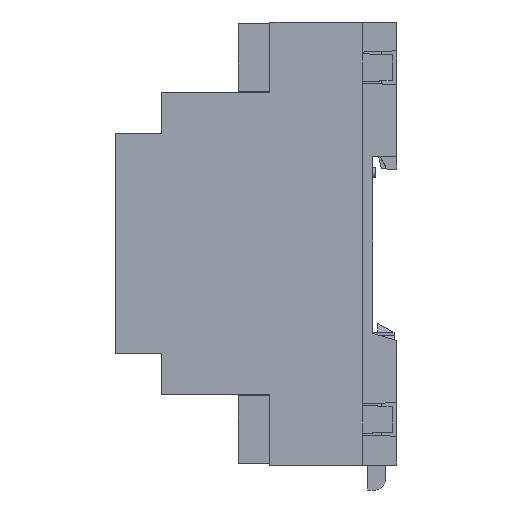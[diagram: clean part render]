
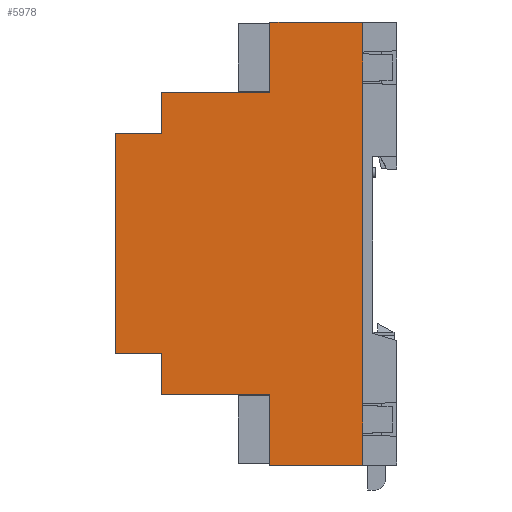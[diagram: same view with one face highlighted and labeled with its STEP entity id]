
A CAD part, left-side view. The second image highlights one B-rep face of the part: STEP entity #5978.
In plain terms, the highlighted planar face has unit normal (-1, 0.009, 0) as drawn and (0, 0.009, -1) by its records, which use the part's own axes.
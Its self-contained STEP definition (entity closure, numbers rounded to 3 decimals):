
#5978=ADVANCED_FACE('',(#27081),#27083,.F.);
#27081=FACE_BOUND('',#27082,.T.);
#27082=EDGE_LOOP('',(#43391,#43392,#43393,#43394,#43395,#43396,#43397,#43398,#43399,
#43400,#43401,#43402,#43403,#43404,#43405,#43406));
#27083=PLANE('',#27084);
#27084=AXIS2_PLACEMENT_3D('',#27085,#27086,#27087);
#27085=CARTESIAN_POINT('',(-46.,6.,-41.8));
#27086=DIRECTION('',(0.,-0.009,1.));
#27087=DIRECTION('',(0.,-1.,-0.009));
#43391=ORIENTED_EDGE('',*,*,#58724,.F.);
#43392=ORIENTED_EDGE('',*,*,#58807,.F.);
#43393=ORIENTED_EDGE('',*,*,#58798,.F.);
#43394=ORIENTED_EDGE('',*,*,#58643,.F.);
#43395=ORIENTED_EDGE('',*,*,#58786,.F.);
#43396=ORIENTED_EDGE('',*,*,#58776,.F.);
#43397=ORIENTED_EDGE('',*,*,#58681,.F.);
#43398=ORIENTED_EDGE('',*,*,#58763,.F.);
#43399=ORIENTED_EDGE('',*,*,#58760,.F.);
#43400=ORIENTED_EDGE('',*,*,#58757,.F.);
#43401=ORIENTED_EDGE('',*,*,#58750,.T.);
#43402=ORIENTED_EDGE('',*,*,#58747,.F.);
#43403=ORIENTED_EDGE('',*,*,#58744,.F.);
#43404=ORIENTED_EDGE('',*,*,#58738,.F.);
#43405=ORIENTED_EDGE('',*,*,#58675,.F.);
#43406=ORIENTED_EDGE('',*,*,#58727,.F.);
#58643=EDGE_CURVE('',#66736,#66739,#66740,.T.);
#58675=EDGE_CURVE('',#66797,#66799,#66800,.T.);
#58681=EDGE_CURVE('',#66809,#66811,#66812,.T.);
#58724=EDGE_CURVE('',#66821,#66889,#66890,.T.);
#58727=EDGE_CURVE('',#66889,#66797,#66894,.T.);
#58738=EDGE_CURVE('',#66799,#66913,#66914,.T.);
#58744=EDGE_CURVE('',#66913,#66921,#66922,.T.);
#58747=EDGE_CURVE('',#66921,#66926,#66927,.T.);
#58750=EDGE_CURVE('',#66931,#66926,#66932,.T.);
#58757=EDGE_CURVE('',#66931,#66944,#66945,.T.);
#58760=EDGE_CURVE('',#66944,#66949,#66950,.T.);
#58763=EDGE_CURVE('',#66949,#66809,#66954,.T.);
#58776=EDGE_CURVE('',#66811,#66975,#66976,.T.);
#58786=EDGE_CURVE('',#66975,#66736,#66992,.T.);
#58798=EDGE_CURVE('',#66739,#66863,#67010,.T.);
#58807=EDGE_CURVE('',#66863,#66821,#67023,.T.);
#66736=VERTEX_POINT('',#82024);
#66739=VERTEX_POINT('',#82029);
#66740=LINE('',#82030,#82031);
#66797=VERTEX_POINT('',#82149);
#66799=VERTEX_POINT('',#82153);
#66800=LINE('',#82154,#82155);
#66809=VERTEX_POINT('',#82173);
#66811=VERTEX_POINT('',#82177);
#66812=LINE('',#82178,#82179);
#66821=VERTEX_POINT('',#82197);
#66863=VERTEX_POINT('',#82285);
#66889=VERTEX_POINT('',#82341);
#66890=LINE('',#82342,#82343);
#66894=LINE('',#82352,#82353);
#66913=VERTEX_POINT('',#82393);
#66914=LINE('',#82394,#82395);
#66921=VERTEX_POINT('',#82413);
#66922=LINE('',#82414,#82415);
#66926=VERTEX_POINT('',#82424);
#66927=LINE('',#82425,#82426);
#66931=VERTEX_POINT('',#82435);
#66932=LINE('',#82436,#82437);
#66944=VERTEX_POINT('',#82462);
#66945=LINE('',#82463,#82464);
#66949=VERTEX_POINT('',#82473);
#66950=LINE('',#82474,#82475);
#66954=LINE('',#82484,#82485);
#66975=VERTEX_POINT('',#82531);
#66976=LINE('',#82532,#82533);
#66992=LINE('',#82568,#82569);
#67010=LINE('',#82610,#82611);
#67023=LINE('',#82641,#82642);
#82024=CARTESIAN_POINT('',(-38.85,6.,-41.8));
#82029=CARTESIAN_POINT('',(-33.15,6.,-41.8));
#82030=CARTESIAN_POINT('',(-38.85,6.,-41.8));
#82031=VECTOR('',#82032,1.);
#82032=DIRECTION('',(1.,0.,0.));
#82149=CARTESIAN_POINT('',(45.35,25.,-41.631));
#82153=CARTESIAN_POINT('',(31.,25.,-41.631));
#82154=CARTESIAN_POINT('',(45.35,25.,-41.631));
#82155=VECTOR('',#82156,1.);
#82156=DIRECTION('',(-1.,0.,0.));
#82173=CARTESIAN_POINT('',(-31.,25.,-41.631));
#82177=CARTESIAN_POINT('',(-45.35,25.,-41.631));
#82178=CARTESIAN_POINT('',(-31.,25.,-41.631));
#82179=VECTOR('',#82180,1.);
#82180=DIRECTION('',(-1.,0.,0.));
#82197=CARTESIAN_POINT('',(38.85,6.,-41.8));
#82285=CARTESIAN_POINT('',(33.15,6.,-41.8));
#82341=CARTESIAN_POINT('',(45.35,6.,-41.8));
#82342=CARTESIAN_POINT('',(38.85,6.,-41.8));
#82343=VECTOR('',#82344,1.);
#82344=DIRECTION('',(1.,0.,0.));
#82352=CARTESIAN_POINT('',(45.35,6.,-41.8));
#82353=VECTOR('',#82354,1.);
#82354=DIRECTION('',(0.,1.,0.009));
#82393=CARTESIAN_POINT('',(31.,47.2,-41.434));
#82394=CARTESIAN_POINT('',(31.,25.,-41.631));
#82395=VECTOR('',#82396,1.);
#82396=DIRECTION('',(0.,1.,0.009));
#82413=CARTESIAN_POINT('',(22.6,47.2,-41.434));
#82414=CARTESIAN_POINT('',(31.,47.2,-41.434));
#82415=VECTOR('',#82416,1.);
#82416=DIRECTION('',(-1.,0.,0.));
#82424=CARTESIAN_POINT('',(22.6,56.7,-41.35));
#82425=CARTESIAN_POINT('',(22.6,47.2,-41.434));
#82426=VECTOR('',#82427,1.);
#82427=DIRECTION('',(0.,1.,0.009));
#82435=CARTESIAN_POINT('',(-22.6,56.7,-41.35));
#82436=CARTESIAN_POINT('',(-22.6,56.7,-41.35));
#82437=VECTOR('',#82438,1.);
#82438=DIRECTION('',(1.,0.,0.));
#82462=CARTESIAN_POINT('',(-22.6,47.2,-41.434));
#82463=CARTESIAN_POINT('',(-22.6,56.7,-41.35));
#82464=VECTOR('',#82465,1.);
#82465=DIRECTION('',(0.,-1.,-0.009));
#82473=CARTESIAN_POINT('',(-31.,47.2,-41.434));
#82474=CARTESIAN_POINT('',(-22.6,47.2,-41.434));
#82475=VECTOR('',#82476,1.);
#82476=DIRECTION('',(-1.,0.,0.));
#82484=CARTESIAN_POINT('',(-31.,47.2,-41.434));
#82485=VECTOR('',#82486,1.);
#82486=DIRECTION('',(0.,-1.,-0.009));
#82531=CARTESIAN_POINT('',(-45.35,6.,-41.8));
#82532=CARTESIAN_POINT('',(-45.35,25.,-41.631));
#82533=VECTOR('',#82534,1.);
#82534=DIRECTION('',(0.,-1.,-0.009));
#82568=CARTESIAN_POINT('',(-45.35,6.,-41.8));
#82569=VECTOR('',#82570,1.);
#82570=DIRECTION('',(1.,0.,0.));
#82610=CARTESIAN_POINT('',(-33.15,6.,-41.8));
#82611=VECTOR('',#82612,1.);
#82612=DIRECTION('',(1.,0.,0.));
#82641=CARTESIAN_POINT('',(33.15,6.,-41.8));
#82642=VECTOR('',#82643,1.);
#82643=DIRECTION('',(1.,0.,0.));
